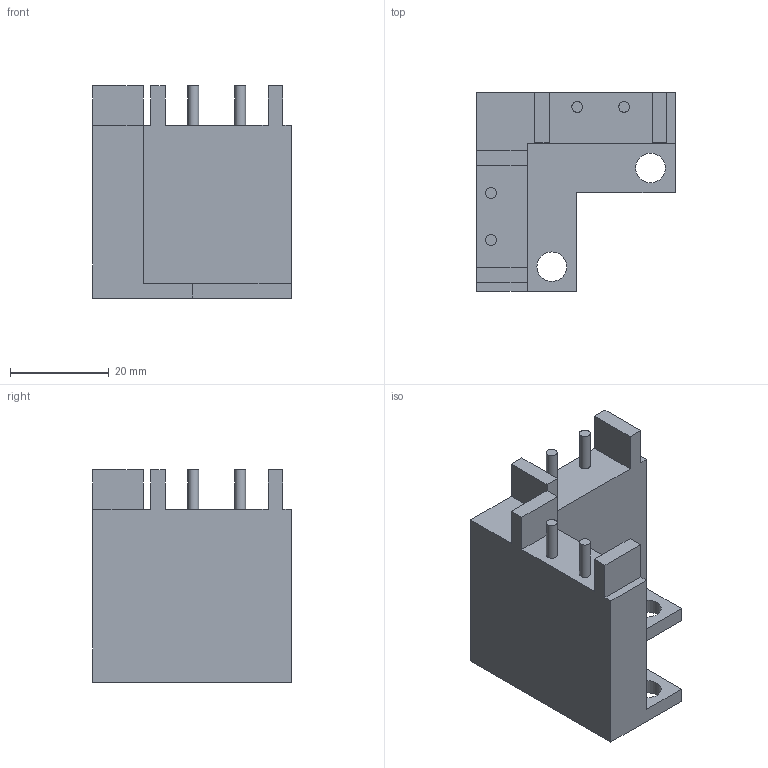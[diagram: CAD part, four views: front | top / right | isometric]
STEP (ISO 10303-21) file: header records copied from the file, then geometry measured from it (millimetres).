
FILE_DESCRIPTION(/* description */ (''),/* implementation_level */ '2;1');
FILE_NAME(/* name */ '/Users/davidflorian/Library/Mobile Documents/com~apple~CloudDocs/Vanderbilt/Papers/OTTO/Supplemental Material/3D-Printable-Components-STEP-Files/Mechanical-Switch-Sensors-Holder.step',/* time_stamp */ '2020-06-30T23:11:35-05:00',/* author */ (''),/* organization */ (''),/* preprocessor_version */ 'ST-DEVELOPER v18.1',/* originating_system */ 'Autodesk Translation Framework v9.3.0.1241',/* authorisation */ '');
FILE_SCHEMA (('AUTOMOTIVE_DESIGN { 1 0 10303 214 3 1 1 }'));
Length unit declared in the file: millimetre
Products named in the file (1): Mechanical-Pipette-Sensor
Bounding box: 40.2 x 40.2 x 43 mm (x, y, z)
Volume: 27492.6 mm3; surface area: 9126 mm2
Topology: 1 solids, 1 shells, 37 faces, 93 edges, 62 vertices
Faces by surface type: plane 31, cylinder 6
Full cylindrical faces by diameter (mm): 2.2 x4, 6 x2
Entity records: 1140 total; most frequent: CARTESIAN_POINT 193, ORIENTED_EDGE 186, DIRECTION 181, EDGE_CURVE 93, LINE 81, VECTOR 81, VERTEX_POINT 62, AXIS2_PLACEMENT_3D 50
